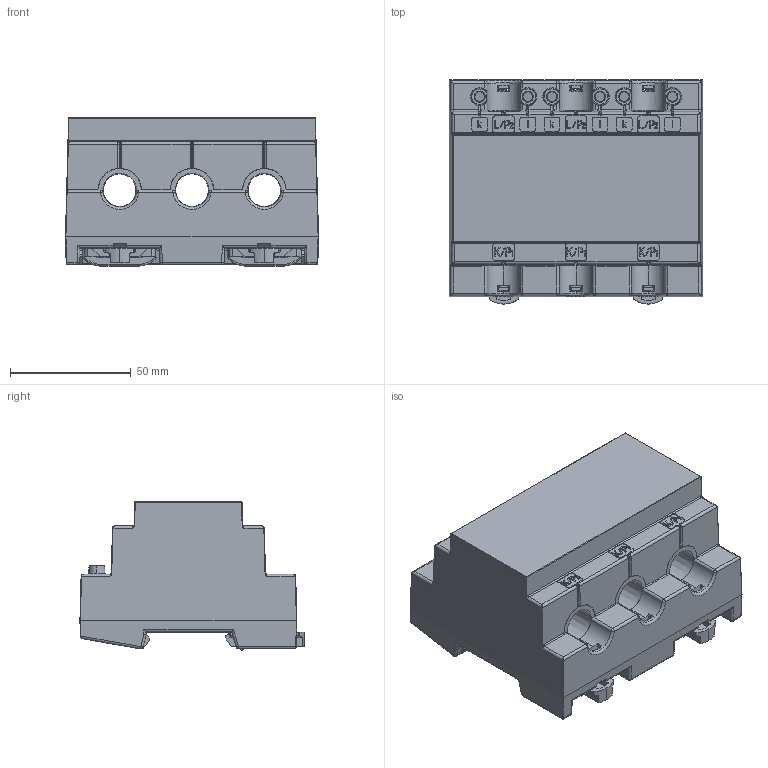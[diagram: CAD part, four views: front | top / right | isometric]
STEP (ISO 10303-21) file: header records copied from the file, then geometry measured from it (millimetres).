
FILE_DESCRIPTION (( 'STEP AP214' ), '1' );
FILE_NAME ('ASRD14_kpl.STEP', '2012-01-17T09:47:10', ( ' ' ), ( '' ), 'SwSTEP 2.0', 'SolidWorks 2010', '' );
FILE_SCHEMA (( 'AUTOMOTIVE_DESIGN' ));
Length unit declared in the file: millimetre
Products named in the file (5): asrd14-12; nmc.ad-03; asrd14-14; ASRD14_kpl; asrd14-11_01
Assembly tree (7 placements, depth 2):
  ASRD14_kpl
    asrd14-12
    asrd14-14  x3
    nmc.ad-03  x2
    asrd14-11_01
Bounding box: 105 x 93 x 61.5 mm (x, y, z)
Volume: 111124.7 mm3; surface area: 117637.4 mm2
Topology: 7 solids, 7 shells, 3549 faces, 9027 edges, 5390 vertices
Faces by surface type: plane 1553, cylinder 1199, bspline 692, cone 101, sphere 4
Entity records: 151028 total; most frequent: CARTESIAN_POINT 38827, ORIENTED_EDGE 16812, DIRECTION 14357, EDGE_CURVE 8406, LINE 5221, VECTOR 5221, VERTEX_POINT 5068, AXIS2_PLACEMENT_3D 4568
